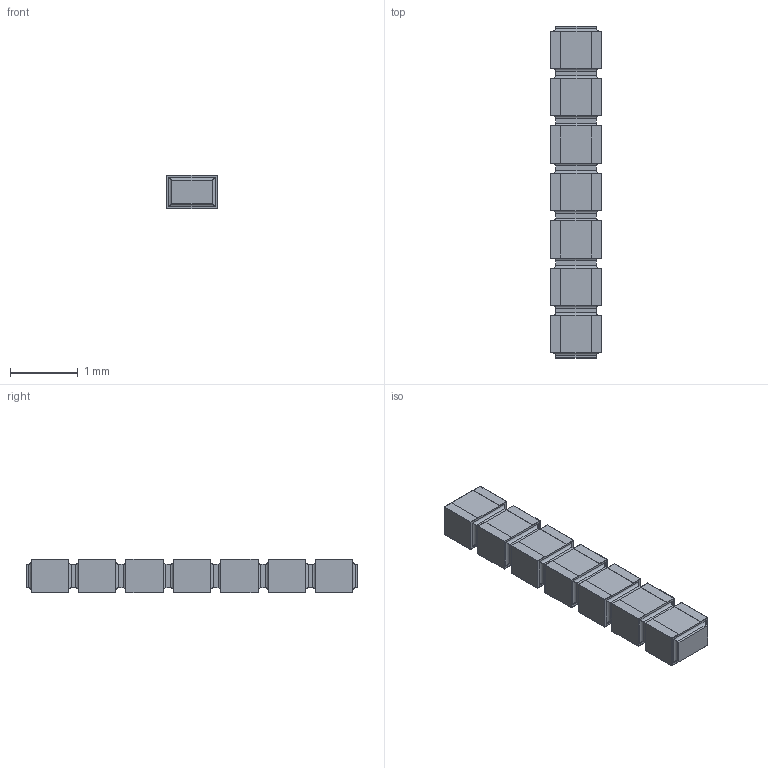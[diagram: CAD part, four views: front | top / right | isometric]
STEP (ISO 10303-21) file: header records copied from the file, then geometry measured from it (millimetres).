
FILE_DESCRIPTION(/* description */ (''),/* implementation_level */ '2;1');
FILE_NAME(/* name */ 'S:\DOCUMENT\AUTOCAD\3D_Modèles\10_3D-pour-VISHAY-COM\PRA\PRA073\PRA073-I2_à_I8\10_IGES\PRA073I7_B-or-N-or-G.stp',/* time_stamp */ '2017-12-21T10:48:03+01:00',/* author */ ('dparmentier'),/* organization */ ('unknown'),/* preprocessor_version */ 'ST-DEVELOPER v17',/* originating_system */ 'Autodesk Inventor 2018',/* authorisation */ '');
FILE_SCHEMA (('AUTOMOTIVE_DESIGN { 1 0 10303 214 3 1 1 }'));
Length unit declared in the file: millimetre
Products named in the file (1): PRA073I7_B-or-N-or-G
Bounding box: 0.75 x 4.9 x 0.5 mm (x, y, z)
Volume: 1.7 mm3; surface area: 26 mm2
Topology: 15 solids, 15 shells, 272 faces, 628 edges, 400 vertices
Faces by surface type: plane 216, cylinder 56
Entity records: 7559 total; most frequent: CARTESIAN_POINT 1301, ORIENTED_EDGE 1256, DIRECTION 1230, EDGE_CURVE 628, LINE 572, VECTOR 572, VERTEX_POINT 400, AXIS2_PLACEMENT_3D 329
